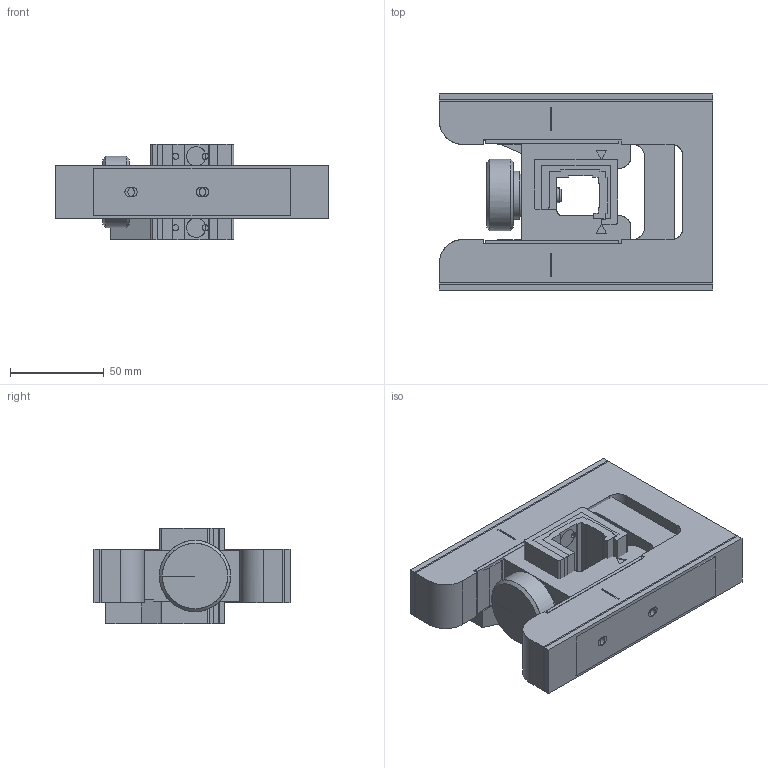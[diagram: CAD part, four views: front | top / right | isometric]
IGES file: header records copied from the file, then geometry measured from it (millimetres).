
Global section: file name: J:\WIP\FIFE WEB\3D (Models)\Model_SE-23_2X2.igs; native system: AutoCAD-17.1s (LMS Tech) (Microsoft Windows NT Version 5.1 (x86)); preprocessor: Autodesk IGES Translator Mechanical Desktop 2008 (Feb 13 2007) from Autodesk, Inc.; date: 20080111.084905; units: inch
Bounding box: 146.05 x 105.27 x 50.8 mm (x, y, z)
Surface area: 220779.1 mm2 (no closed solid volume)
Topology: 0 solids, 0 shells, 544 faces, 4921 edges, 5144 vertices
Faces by surface type: bspline 544
